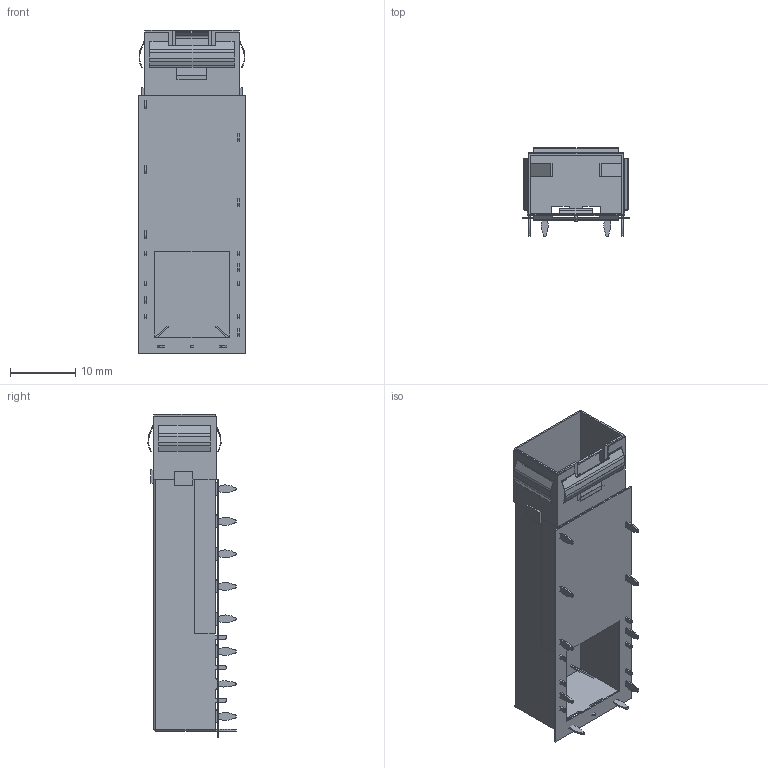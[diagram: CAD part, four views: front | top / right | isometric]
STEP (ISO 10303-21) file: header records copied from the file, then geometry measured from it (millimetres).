
FILE_DESCRIPTION (( 'STEP AP203' ), '1' );
FILE_NAME ('SFP28 1X1 揤諉褐 拸堎挴.STEP', '2024-09-14T03:12:59', ( '' ), ( '' ), 'SwSTEP 2.0', 'SolidWorks 2018', '' );
FILE_SCHEMA (( 'CONFIG_CONTROL_DESIGN' ));
Length unit declared in the file: millimetre
Products named in the file (1): SFP28 1X1 揤諉褐 拸堎挴
Bounding box: 16.5 x 13.55 x 49.8 mm (x, y, z)
Volume: 769.3 mm3; surface area: 5956.5 mm2
Topology: 2 solids, 2 shells, 456 faces, 1386 edges, 936 vertices
Faces by surface type: plane 263, cylinder 191, sphere 2
Entity records: 15697 total; most frequent: CARTESIAN_POINT 2777, ORIENTED_EDGE 2768, DIRECTION 2680, EDGE_CURVE 1384, LINE 1002, VECTOR 1002, VERTEX_POINT 936, AXIS2_PLACEMENT_3D 839
